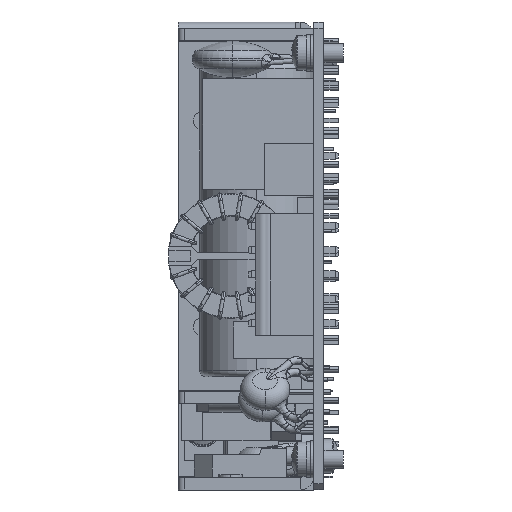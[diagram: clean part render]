
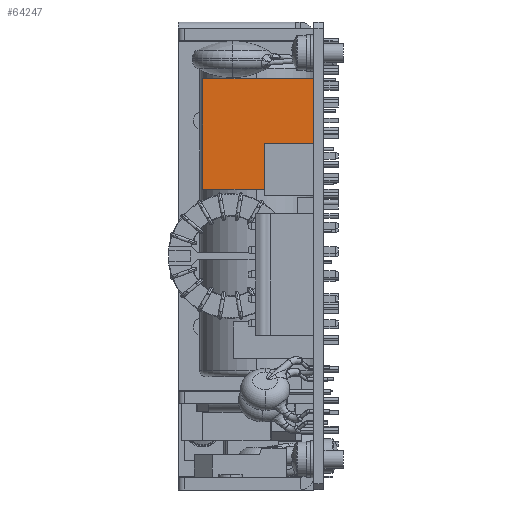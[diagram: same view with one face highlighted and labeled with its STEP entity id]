
A CAD part, left-side view. The second image highlights one B-rep face of the part: STEP entity #64247.
In plain terms, the highlighted planar face has unit normal (-1, 0, 0) as drawn and (0, 0, -1) by its records, which use the part's own axes.
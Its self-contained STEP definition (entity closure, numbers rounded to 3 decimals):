
#1112 = DIRECTION ( 'NONE',  ( 0., 1., 0. ) ) ;
#2716 = LINE ( 'NONE', #93360, #51449 ) ;
#3206 = VERTEX_POINT ( 'NONE', #65962 ) ;
#8559 = DIRECTION ( 'NONE',  ( 0., 0., 1. ) ) ;
#9289 = ORIENTED_EDGE ( 'NONE', *, *, #48989, .F. ) ;
#10298 = ORIENTED_EDGE ( 'NONE', *, *, #97230, .F. ) ;
#11423 = CARTESIAN_POINT ( 'NONE',  ( 9., -9., -5. ) ) ;
#13136 = CARTESIAN_POINT ( 'NONE',  ( 9., -9., -5. ) ) ;
#15924 = FACE_OUTER_BOUND ( 'NONE', #43603, .T. ) ;
#18828 = CARTESIAN_POINT ( 'NONE',  ( -9., 9., -5. ) ) ;
#21752 = LINE ( 'NONE', #11423, #54609 ) ;
#29124 = PLANE ( 'NONE',  #36724 ) ;
#33576 = ORIENTED_EDGE ( 'NONE', *, *, #66168, .F. ) ;
#36724 = AXIS2_PLACEMENT_3D ( 'NONE', #18828, #8559, #99194 ) ;
#37430 = CARTESIAN_POINT ( 'NONE',  ( 9., 9., -5. ) ) ;
#38760 = DIRECTION ( 'NONE',  ( 1., 0., 0. ) ) ;
#42182 = DIRECTION ( 'NONE',  ( -1., 0., 0. ) ) ;
#43603 = EDGE_LOOP ( 'NONE', ( #10298, #46345, #33576, #9289 ) ) ;
#46345 = ORIENTED_EDGE ( 'NONE', *, *, #97311, .F. ) ;
#48989 = EDGE_CURVE ( 'NONE', #79936, #78704, #59467, .T. ) ;
#49125 = CARTESIAN_POINT ( 'NONE',  ( 9., -9., -5. ) ) ;
#51449 = VECTOR ( 'NONE', #83000, 1000. ) ;
#52582 = CARTESIAN_POINT ( 'NONE',  ( 9., 9., -5. ) ) ;
#54609 = VECTOR ( 'NONE', #1112, 1000. ) ;
#59467 = LINE ( 'NONE', #49125, #78382 ) ;
#62887 = LINE ( 'NONE', #52582, #93173 ) ;
#62973 = CARTESIAN_POINT ( 'NONE',  ( -9., -9., -5. ) ) ;
#64247 = ADVANCED_FACE ( 'NONE', ( #15924 ), #29124, .F. ) ;
#65962 = CARTESIAN_POINT ( 'NONE',  ( -9., 9., -5. ) ) ;
#66168 = EDGE_CURVE ( 'NONE', #78704, #84987, #21752, .T. ) ;
#78382 = VECTOR ( 'NONE', #38760, 1000. ) ;
#78704 = VERTEX_POINT ( 'NONE', #13136 ) ;
#79936 = VERTEX_POINT ( 'NONE', #62973 ) ;
#83000 = DIRECTION ( 'NONE',  ( 0., -1., 0. ) ) ;
#84987 = VERTEX_POINT ( 'NONE', #37430 ) ;
#93173 = VECTOR ( 'NONE', #42182, 1000. ) ;
#93360 = CARTESIAN_POINT ( 'NONE',  ( -9., -9., -5. ) ) ;
#97230 = EDGE_CURVE ( 'NONE', #3206, #79936, #2716, .T. ) ;
#97311 = EDGE_CURVE ( 'NONE', #84987, #3206, #62887, .T. ) ;
#99194 = DIRECTION ( 'NONE',  ( 1., 0., 0. ) ) ;
